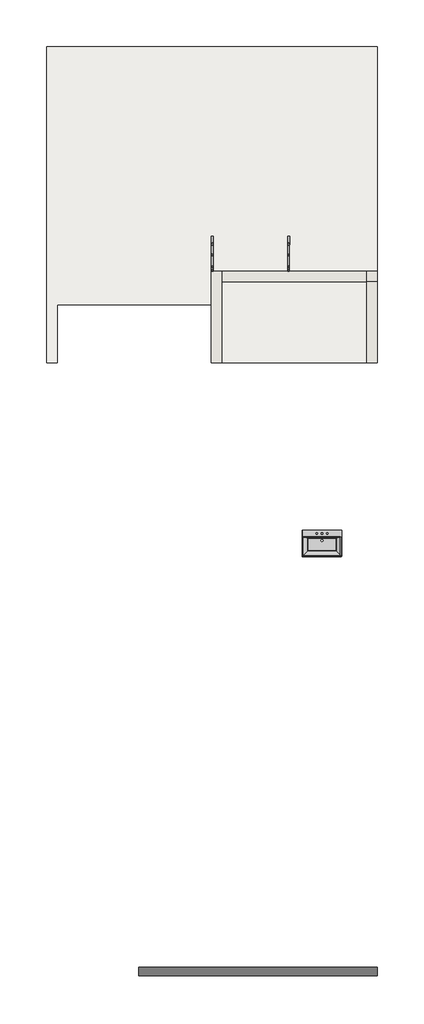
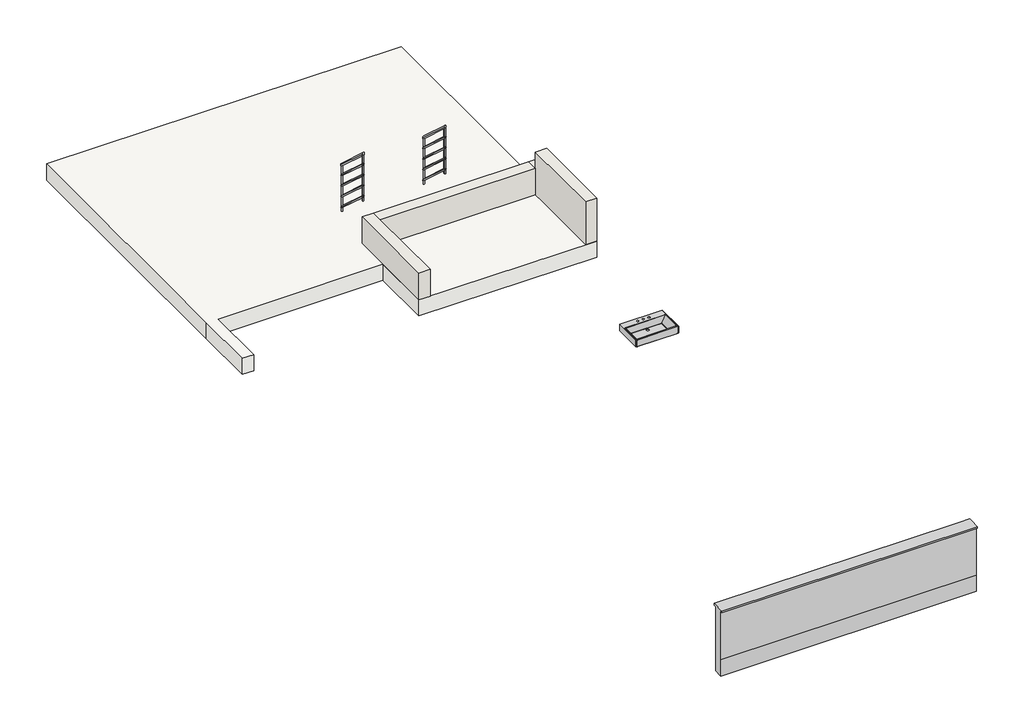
# One storey: 3 walls, 2 railings, 1 flow terminal, 1 proxy, 1 slab.
"""IFC4 building model written with IfcOpenShell, lengths in millimetres."""

from ifc_helpers import new_model, si_unit, frame, origin, place, context, project, spatial, polyline, outline, extrude, faceted_brep, transform, mapped, element, save
from components import m_sink_bathroom_wall_hung_2_650_x_500mm_c8be8ad8, railing_900mm_pipe_2_4ab0b3c4, railing_900mm_pipe_2_fa7be57b

model = new_model("IFC4")

# Units and contexts
model_context = context("Model", 3, world=origin())
ifc_project = project(units=[si_unit("LENGTHUNIT", "METRE", prefix="MILLI")], contexts=[model_context])

# Site, building, storey
site = spatial("IfcSite", under=ifc_project)
building = spatial("IfcBuilding", under=site)
storey = spatial("IfcBuildingStorey", under=building, Name="Backyard", Elevation=-800.0)

# Proxy
placement = place(None, origin())
element("IfcBuildingElementProxy", 1, Name="Parapetto", ObjectType="Parapetto", at=placement, inside=storey, context=model_context, shape_type="Brep", body=[
    faceted_brep([(-6383.3266822, -6901.7671527, -300.0), (-6383.3266822, -7061.7671527, -300.0), (-6383.3266822, -7061.7671527, 0.0), (-6383.3266822, -7061.7671527, 900.0), (-6383.3266822, -7091.7671527, 900.0), (-6383.3266822, -7091.7671527, 930.0), (-6383.3266822, -6851.7671527, 930.0), (-6383.3266822, -6851.7671527, 900.0), (-6383.3266822, -6901.7671527, 900.0), (-6383.3266822, -6901.7671527, 0.0), (-1861.8266822, -6901.7671527, -300.0), (-1861.8266822, -6901.7671527, 0.0), (-1861.8266822, -6901.7671527, 900.0), (-1861.8266822, -6851.7671527, 900.0), (-1861.8266822, -6851.7671527, 930.0), (-1861.8266822, -6901.7671527, 930.0), (-1861.8266822, -7091.7671527, 930.0), (-1861.8266822, -7091.7671527, 900.0), (-1861.8266822, -7061.7671527, 900.0), (-1861.8266822, -7061.7671527, 0.0), (-1861.8266822, -7061.7671527, -300.0), (-2061.8266822, -6851.7671527, 930.0), (-2061.8266822, -6851.7671527, 900.0), (-2061.8266822, -6901.7671527, 900.0)], [[[0, 1, 2, 3, 4, 5, 6, 7, 8, 9]], [[10, 11, 12, 13, 14, 15, 16, 17, 18, 19, 20]], [[1, 0, 10, 20]], [[2, 1, 20, 19]], [[3, 2, 19, 18]], [[4, 3, 18, 17]], [[5, 4, 17, 16]], [[6, 5, 16, 15, 14, 21]], [[7, 6, 21, 14, 13, 22]], [[8, 7, 22, 13, 12, 23]], [[9, 8, 23, 12, 11]], [[0, 9, 11, 10]]]),
])

# Flow terminal
m_sink_bathroom_wall_hung_2_650_x_500mm_shape = m_sink_bathroom_wall_hung_2_650_x_500mm_c8be8ad8(model_context)
element("IfcFlowTerminal", 2, ObjectType="M_Sink Bathroom Wall Hung_2 : 650 x 500mm", at=placement, inside=storey, context=model_context, shape_type="MappedRepresentation", body=[
    mapped(m_sink_bathroom_wall_hung_2_650_x_500mm_shape, transform((-2785.3578922, 1460.6593598, -800.3807718), x_axis=(-1.0, 0.0, 0.0), y_axis=(0.0, -1.0, 0.0), z_axis=(0.0, 0.0, 1.0))),
])

# Railings
railing_900mm_pipe_2_shape = railing_900mm_pipe_2_4ab0b3c4(model_context)
element("IfcRailing", 3, ObjectType="900mm Pipe 2", at=placement, inside=storey, context=model_context, shape_type="MappedRepresentation", body=[
    mapped(railing_900mm_pipe_2_shape, transform((0.0, 0.0, 0.0), x_axis=(1.0, 0.0, 0.0), y_axis=(0.0, 1.0, 0.0), z_axis=(0.0, 0.0, 1.0))),
])
railing_900mm_pipe_2_2_shape = railing_900mm_pipe_2_fa7be57b(model_context)
element("IfcRailing", 4, ObjectType="900mm Pipe 2", at=placement, inside=storey, context=model_context, shape_type="MappedRepresentation", body=[
    mapped(railing_900mm_pipe_2_2_shape, transform((0.0, 0.0, 0.0), x_axis=(1.0, 0.0, 0.0), y_axis=(0.0, 1.0, 0.0), z_axis=(0.0, 0.0, 1.0))),
])

# Slab
element("IfcSlab", 5, ObjectType="Generic 300mm", at=placement, inside=storey, context=model_context, shape_type="SweptSolid", body=[
    extrude(outline(polyline([(-1861.8266822, 4573.2328473), (-5011.8266822, 4573.2328473), (-5011.8266822, 5673.2328473), (-7936.8266822, 5673.2328473), (-7936.8266822, 4573.2328473), (-8136.8266822, 4573.2328473), (-8136.8266822, 5673.2328473), (-8136.8266822, 10573.2328473), (-1861.8266822, 10573.2328473), (-1861.8266822, 4573.2328473)])), frame((0.0, 0.0, -1100.0), z_axis=(0.0, 0.0, 1.0), x_axis=(1.0, 0.0, 0.0)), (0.0, 0.0, 1.0), 300.0),
])

# Walls
element("IfcWall", 6, ObjectType="Generic - 200mm", at=placement, inside=storey, context=model_context, shape_type="Brep", body=[
    faceted_brep([(-4811.8266822, 4573.2328473, -800.0), (-4811.8266822, 6113.2328473, -800.0), (-4811.8266822, 6313.2328473, -800.0), (-4811.8266822, 6313.2328473, -300.0), (-4811.8266822, 6113.2328473, -300.0), (-4811.8266822, 4573.2328473, -300.0), (-5011.8266822, 4573.2328473, -800.0), (-5011.8266822, 4573.2328473, -300.0), (-5011.8266822, 6313.2328473, -300.0), (-5011.8266822, 6313.2328473, -800.0)], [[[0, 1, 2, 3, 4, 5]], [[6, 7, 8, 9]], [[2, 1, 0, 6, 9]], [[3, 2, 9, 8]], [[0, 5, 7, 6]], [[5, 4, 3, 8, 7]]]),
])
element("IfcWall", 7, ObjectType="Generic - 200mm", at=placement, inside=storey, context=model_context, shape_type="Brep", body=[
    faceted_brep([(-4811.8266822, 6113.2328473, -800.0), (-2061.8266822, 6113.2328473, -800.0), (-1861.8266822, 6113.2328473, -800.0), (-1861.8266822, 6113.2328473, -300.0), (-2061.8266822, 6113.2328473, -300.0), (-4811.8266822, 6113.2328473, -300.0), (-4811.8266822, 6313.2328473, -800.0), (-4811.8266822, 6313.2328473, -300.0), (-2061.8266822, 6313.2328473, -300.0), (-1861.8266822, 6313.2328473, -300.0), (-1861.8266822, 6313.2328473, -800.0)], [[[0, 1, 2, 3, 4, 5]], [[6, 7, 8, 9, 10]], [[2, 1, 0, 6, 10]], [[3, 2, 10, 9]], [[0, 5, 7, 6]], [[4, 3, 9, 8]], [[5, 4, 8, 7]]]),
])
element("IfcWall", 8, ObjectType="Generic - 200mm", at=placement, inside=storey, context=model_context, shape_type="Brep", body=[
    faceted_brep([(-2061.8266822, 6113.2328473, -800.0), (-2061.8266822, 4573.2328473, -800.0), (-2061.8266822, 4573.2328473, 0.0), (-2061.8266822, 6113.2328473, 0.0), (-1861.8266822, 6113.2328473, -800.0), (-1861.8266822, 6113.2328473, -300.0), (-1861.8266822, 6113.2328473, 0.0), (-1861.8266822, 4573.2328473, 0.0), (-1861.8266822, 4573.2328473, -800.0)], [[[0, 1, 2, 3]], [[4, 5, 6, 7, 8]], [[1, 0, 4, 8]], [[3, 2, 7, 6]], [[0, 3, 6, 5, 4]], [[2, 1, 8, 7]]]),
])

save(model, "model.ifc")
